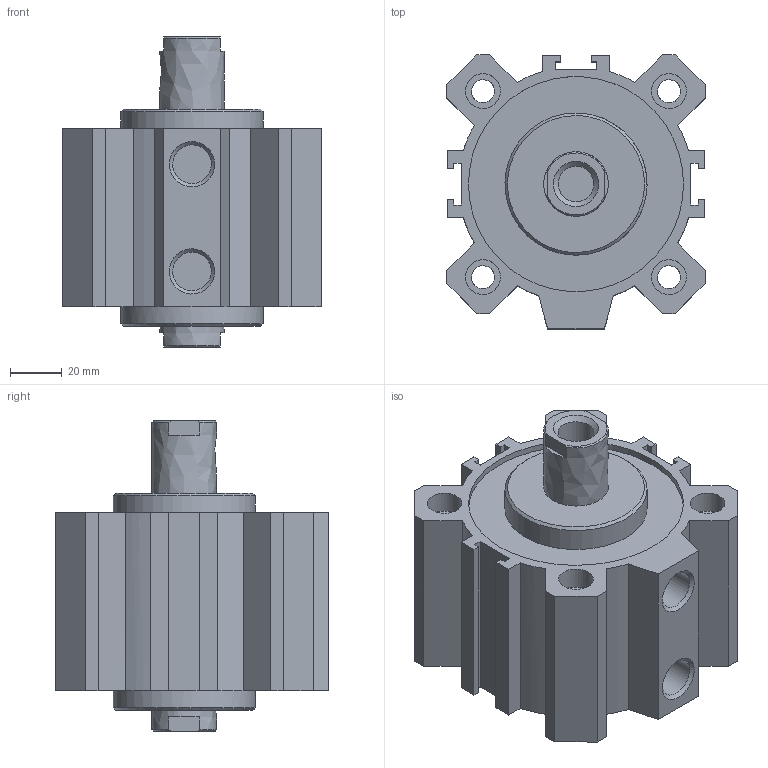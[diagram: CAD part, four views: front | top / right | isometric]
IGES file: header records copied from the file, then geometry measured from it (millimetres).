
Global section: file name: 1514_80_0020; native system: Autodesk Inventor 2014; preprocessor: unknown; author: A. Manieri; date: 20160824.142333; units: millimetre
Bounding box: 100 x 106 x 120 mm (x, y, z)
Volume: 501997.2 mm3; surface area: 112596 mm2
Topology: 2 solids, 2 shells, 132 faces, 346 edges, 238 vertices
Faces by surface type: bspline 132
